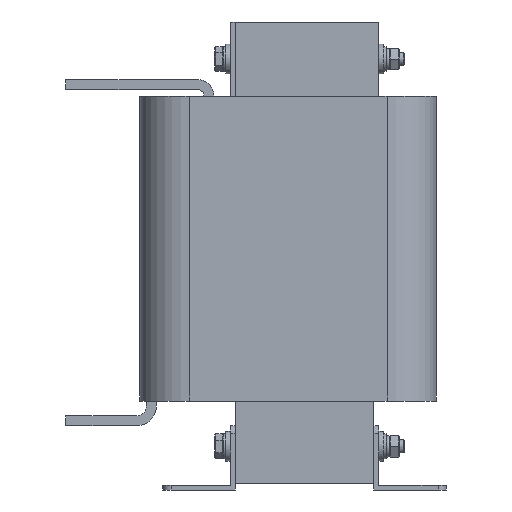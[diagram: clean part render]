
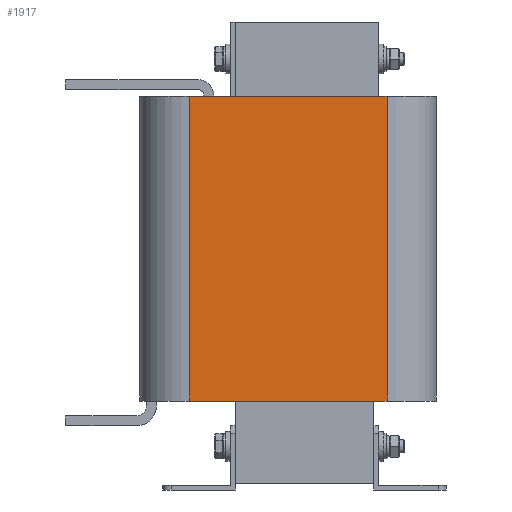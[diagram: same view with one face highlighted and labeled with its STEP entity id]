
A CAD part, left-side view. The second image highlights one B-rep face of the part: STEP entity #1917.
In plain terms, the highlighted planar face has unit normal (-1, 0, 0).
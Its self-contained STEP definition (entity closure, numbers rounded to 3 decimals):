
#1917=ADVANCED_FACE('',(#2347),#2349,.T.);
#2347=FACE_BOUND('',#2348,.T.);
#2348=EDGE_LOOP('',(#3362,#3363,#3364,#3365));
#2349=PLANE('',#2350);
#2350=AXIS2_PLACEMENT_3D('',#2351,#2352,#2353);
#2351=CARTESIAN_POINT('',(-45.,60.,0.));
#2352=DIRECTION('',(-1.,0.,0.));
#2353=DIRECTION('',(0.,-1.,0.));
#3362=ORIENTED_EDGE('',*,*,#3915,.T.);
#3363=ORIENTED_EDGE('',*,*,#3916,.T.);
#3364=ORIENTED_EDGE('',*,*,#3917,.F.);
#3365=ORIENTED_EDGE('',*,*,#3913,.F.);
#3913=EDGE_CURVE('',#4301,#4303,#4304,.T.);
#3915=EDGE_CURVE('',#4301,#4306,#4307,.T.);
#3916=EDGE_CURVE('',#4306,#4308,#4309,.T.);
#3917=EDGE_CURVE('',#4303,#4308,#4310,.T.);
#4301=VERTEX_POINT('',#5065);
#4303=VERTEX_POINT('',#5070);
#4304=LINE('',#5071,#5072);
#4306=VERTEX_POINT('',#5078);
#4307=LINE('',#5079,#5080);
#4308=VERTEX_POINT('',#5082);
#4309=LINE('',#5083,#5084);
#4310=LINE('',#5086,#5087);
#5065=CARTESIAN_POINT('',(-45.,60.,0.));
#5070=CARTESIAN_POINT('',(-45.,60.,185.));
#5071=CARTESIAN_POINT('',(-45.,60.,0.));
#5072=VECTOR('',#5073,1.);
#5073=DIRECTION('',(0.,0.,1.));
#5078=CARTESIAN_POINT('',(-45.,-60.,0.));
#5079=CARTESIAN_POINT('',(-45.,60.,0.));
#5080=VECTOR('',#5081,1.);
#5081=DIRECTION('',(0.,-1.,0.));
#5082=CARTESIAN_POINT('',(-45.,-60.,185.));
#5083=CARTESIAN_POINT('',(-45.,-60.,0.));
#5084=VECTOR('',#5085,1.);
#5085=DIRECTION('',(0.,0.,1.));
#5086=CARTESIAN_POINT('',(-45.,60.,185.));
#5087=VECTOR('',#5088,1.);
#5088=DIRECTION('',(0.,-1.,0.));
